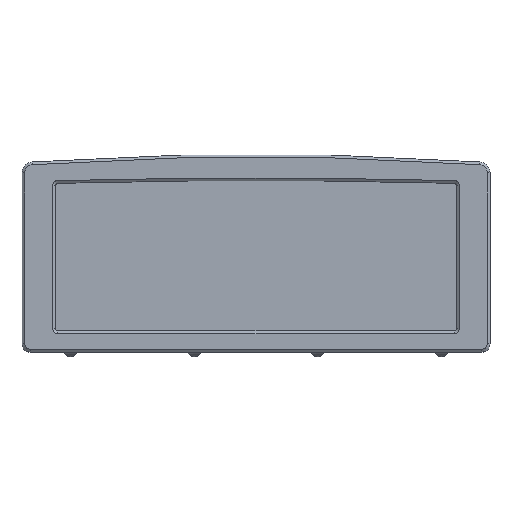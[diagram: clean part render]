
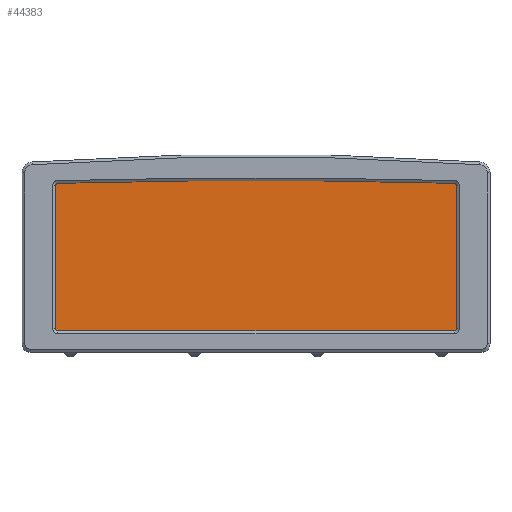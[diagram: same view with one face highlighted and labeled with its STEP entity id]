
A CAD part, top view. The second image highlights one B-rep face of the part: STEP entity #44383.
In plain terms, the highlighted planar face has unit normal (0, 0, 1).
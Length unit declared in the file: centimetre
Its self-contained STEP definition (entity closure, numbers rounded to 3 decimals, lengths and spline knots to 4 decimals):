
#2147=PLANE('',#46349);
#3094=CIRCLE('',#46291,0.15);
#3095=CIRCLE('',#46293,537.8099);
#3096=CIRCLE('',#46295,0.15);
#3109=CIRCLE('',#46344,0.15);
#3110=CIRCLE('',#46347,0.15);
#6510=VERTEX_POINT('',#51520);
#6511=VERTEX_POINT('',#51522);
#6512=VERTEX_POINT('',#51526);
#6513=VERTEX_POINT('',#51530);
#6514=VERTEX_POINT('',#51534);
#6564=VERTEX_POINT('',#51914);
#6565=VERTEX_POINT('',#51916);
#6566=VERTEX_POINT('',#51920);
#12066=VECTOR('',#102539,1.);
#12130=VECTOR('',#102699,1.);
#12131=VECTOR('',#102705,1.);
#15177=LINE('',#51521,#12066);
#15241=LINE('',#51921,#12130);
#15242=LINE('',#51925,#12131);
#18358=EDGE_CURVE('',#6511,#6510,#15177,.T.);
#18361=EDGE_CURVE('',#6510,#6512,#3094,.T.);
#18363=EDGE_CURVE('',#6512,#6513,#3095,.T.);
#18365=EDGE_CURVE('',#6513,#6514,#3096,.T.);
#18458=EDGE_CURVE('',#6565,#6564,#3109,.T.);
#18461=EDGE_CURVE('',#6564,#6566,#15241,.T.);
#18462=EDGE_CURVE('',#6566,#6511,#3110,.T.);
#18463=EDGE_CURVE('',#6514,#6565,#15242,.T.);
#26016=ORIENTED_EDGE('',*,*,#18458,.T.);
#26017=ORIENTED_EDGE('',*,*,#18461,.T.);
#26018=ORIENTED_EDGE('',*,*,#18462,.T.);
#26019=ORIENTED_EDGE('',*,*,#18358,.T.);
#26020=ORIENTED_EDGE('',*,*,#18361,.T.);
#26021=ORIENTED_EDGE('',*,*,#18363,.T.);
#26022=ORIENTED_EDGE('',*,*,#18365,.T.);
#26023=ORIENTED_EDGE('',*,*,#18463,.T.);
#40274=EDGE_LOOP('',(#26016,#26017,#26018,#26019,#26020,#26021,#26022,#26023));
#42335=FACE_BOUND('',#40274,.T.);
#44383=ADVANCED_FACE('',(#42335),#2147,.T.);
#46291=AXIS2_PLACEMENT_3D('',#51527,#102544,#102545);
#46293=AXIS2_PLACEMENT_3D('',#51531,#102549,#102550);
#46295=AXIS2_PLACEMENT_3D('',#51535,#102554,#102555);
#46344=AXIS2_PLACEMENT_3D('',#51915,#102694,#102695);
#46347=AXIS2_PLACEMENT_3D('',#51923,#102702,#102703);
#46349=AXIS2_PLACEMENT_3D('',#51926,#102706,$);
#51520=CARTESIAN_POINT('',(14.592,12.138,3.1));
#51521=CARTESIAN_POINT('',(14.592,1.688,3.1));
#51522=CARTESIAN_POINT('',(14.592,1.688,3.1));
#51526=CARTESIAN_POINT('',(14.446,12.2879,3.1));
#51527=CARTESIAN_POINT('',(14.442,12.138,3.1));
#51530=CARTESIAN_POINT('',(-14.446,12.2879,3.1));
#51531=CARTESIAN_POINT('',(0.,-525.3279,3.1));
#51534=CARTESIAN_POINT('',(-14.592,12.138,3.1));
#51535=CARTESIAN_POINT('',(-14.442,12.138,3.1));
#51914=CARTESIAN_POINT('',(-14.442,1.538,3.1));
#51915=CARTESIAN_POINT('',(-14.442,1.688,3.1));
#51916=CARTESIAN_POINT('',(-14.592,1.688,3.1));
#51920=CARTESIAN_POINT('',(14.442,1.538,3.1));
#51921=CARTESIAN_POINT('',(-14.442,1.538,3.1));
#51923=CARTESIAN_POINT('',(14.442,1.688,3.1));
#51925=CARTESIAN_POINT('',(-14.592,12.138,3.1));
#51926=CARTESIAN_POINT('',(0.,6.9555,3.1));
#102539=DIRECTION('',(0.,1.,0.));
#102544=DIRECTION('',(0.,0.,1.));
#102545=DIRECTION('',(0.15,0.,0.));
#102549=DIRECTION('',(0.,0.,1.));
#102550=DIRECTION('',(537.81,0.,0.));
#102554=DIRECTION('',(0.,0.,1.));
#102555=DIRECTION('',(0.15,0.,0.));
#102694=DIRECTION('',(0.,0.,1.));
#102695=DIRECTION('',(0.15,0.,0.));
#102699=DIRECTION('',(1.,0.,0.));
#102702=DIRECTION('',(0.,0.,1.));
#102703=DIRECTION('',(0.15,0.,0.));
#102705=DIRECTION('',(0.,-1.,0.));
#102706=DIRECTION('',(0.,0.,1.));
